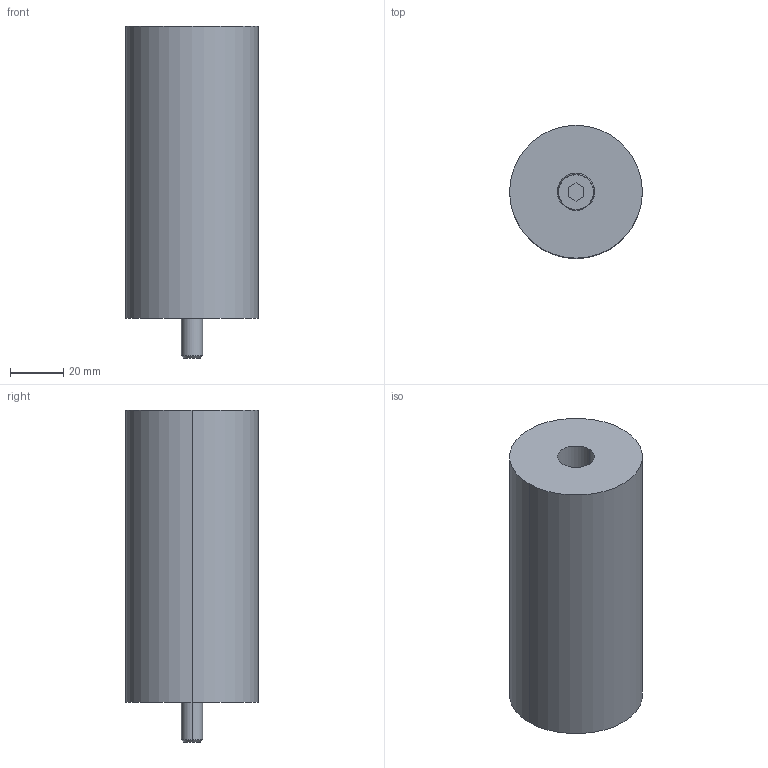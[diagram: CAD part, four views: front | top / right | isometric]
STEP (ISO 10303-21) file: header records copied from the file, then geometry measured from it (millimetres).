
FILE_DESCRIPTION(/* description */ (''),/* implementation_level */ '2;1');
FILE_NAME(/* name */ '3d_esbt50-110_06996_r00.stp',/* time_stamp */ '2011-01-10T14:15:40+09:00',/* author */ ('MISUMI'),/* organization */ (''),/* preprocessor_version */ 'ST-DEVELOPER v11',/* originating_system */ 'UGS - NX 5.0',/* authorisation */ '');
FILE_SCHEMA (('CONFIG_CONTROL_DESIGN'));
Length unit declared in the file: millimetre
Products named in the file (1): 3d_esbt50-110_06996_r00
Bounding box: 50 x 50 x 125 mm (x, y, z)
Volume: 206183.2 mm3; surface area: 30149.6 mm2
Topology: 3 solids, 3 shells, 35 faces, 72 edges, 46 vertices
Faces by surface type: plane 15, cylinder 14, cone 6
Entity records: 1022 total; most frequent: DIRECTION 178, CARTESIAN_POINT 154, ORIENTED_EDGE 144, EDGE_CURVE 72, AXIS2_PLACEMENT_3D 70, VERTEX_POINT 46, EDGE_LOOP 42, LINE 38
